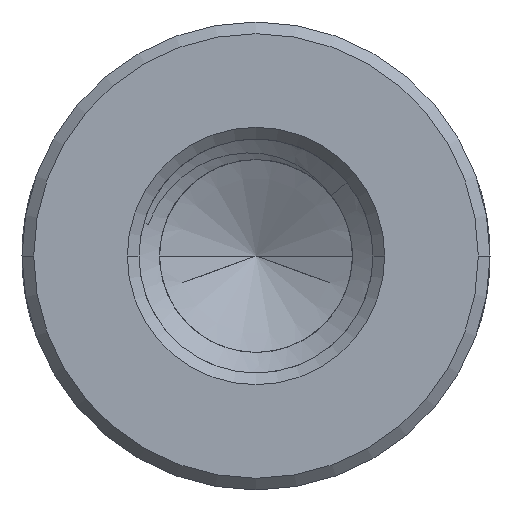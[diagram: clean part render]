
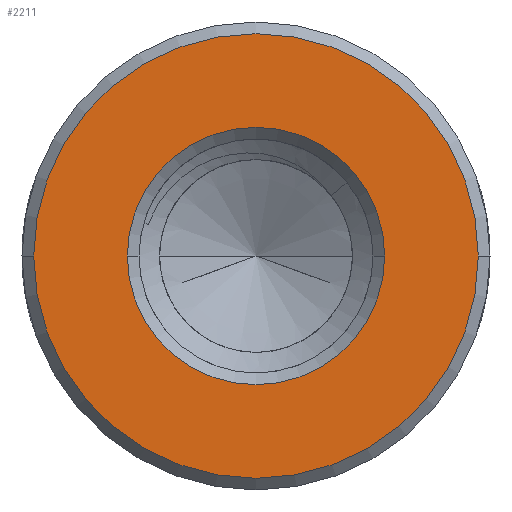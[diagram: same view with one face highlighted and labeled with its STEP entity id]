
A CAD part, front view. The second image highlights one B-rep face of the part: STEP entity #2211.
In plain terms, the highlighted planar face has unit normal (0, -1, 0).
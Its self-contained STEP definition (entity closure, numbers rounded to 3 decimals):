
#1=CARTESIAN_POINT('',(0.,-30.,0.));
#2=DIRECTION('',(0.,-1.,0.));
#3=DIRECTION('',(-1.,0.,0.));
#4=AXIS2_PLACEMENT_3D('',#1,#2,#3);
#6=CARTESIAN_POINT('',(0.,-30.,0.));
#7=DIRECTION('',(0.,-1.,0.));
#8=DIRECTION('',(1.,0.,0.));
#9=AXIS2_PLACEMENT_3D('',#6,#7,#8);
#11=CARTESIAN_POINT('',(0.,-30.,0.));
#12=DIRECTION('',(0.,1.,0.));
#13=DIRECTION('',(-1.,0.,0.));
#14=AXIS2_PLACEMENT_3D('',#11,#12,#13);
#16=CARTESIAN_POINT('',(0.,-30.,0.));
#17=DIRECTION('',(0.,1.,0.));
#18=DIRECTION('',(1.,0.,0.));
#19=AXIS2_PLACEMENT_3D('',#16,#17,#18);
#2055=CARTESIAN_POINT('',(-5.7,-30.,0.));
#2056=CARTESIAN_POINT('',(5.7,-30.,0.));
#2057=VERTEX_POINT('',#2055);
#2058=VERTEX_POINT('',#2056);
#2147=CARTESIAN_POINT('',(-3.3,-30.,0.));
#2148=CARTESIAN_POINT('',(3.3,-30.,0.));
#2149=VERTEX_POINT('',#2147);
#2150=VERTEX_POINT('',#2148);
#2194=CARTESIAN_POINT('',(0.,-30.,0.));
#2195=DIRECTION('',(0.,1.,0.));
#2196=DIRECTION('',(1.,0.,0.));
#2197=AXIS2_PLACEMENT_3D('',#2194,#2195,#2196);
#2198=PLANE('',#2197);
#2200=ORIENTED_EDGE('',*,*,#2199,.F.);
#2202=ORIENTED_EDGE('',*,*,#2201,.F.);
#2203=EDGE_LOOP('',(#2200,#2202));
#2204=FACE_OUTER_BOUND('',#2203,.F.);
#2206=ORIENTED_EDGE('',*,*,#2205,.F.);
#2208=ORIENTED_EDGE('',*,*,#2207,.F.);
#2209=EDGE_LOOP('',(#2206,#2208));
#2210=FACE_BOUND('',#2209,.F.);
#2211=ADVANCED_FACE('',(#2204,#2210),#2198,.F.);
#5=CIRCLE('',#4,5.7);
#10=CIRCLE('',#9,5.7);
#15=CIRCLE('',#14,3.3);
#20=CIRCLE('',#19,3.3);
#2199=EDGE_CURVE('',#2057,#2058,#5,.T.);
#2201=EDGE_CURVE('',#2058,#2057,#10,.T.);
#2205=EDGE_CURVE('',#2149,#2150,#15,.T.);
#2207=EDGE_CURVE('',#2150,#2149,#20,.T.);
